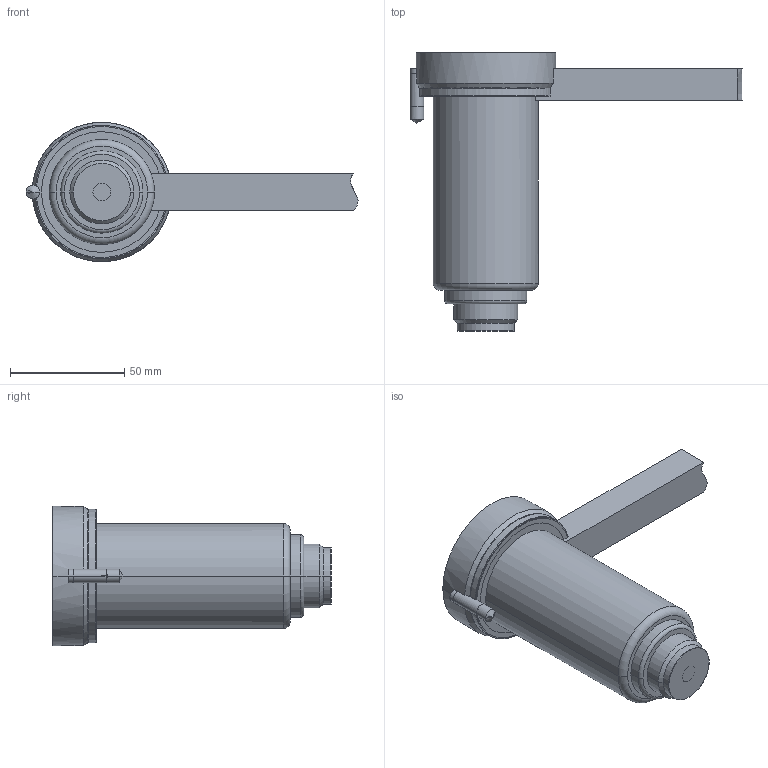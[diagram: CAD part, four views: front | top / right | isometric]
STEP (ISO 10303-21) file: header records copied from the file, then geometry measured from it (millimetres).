
FILE_DESCRIPTION((''),'2;1');
FILE_NAME('SV620007-C_ASM','2016-01-18T',('benoit'),(''),'PRO/ENGINEER BY PARAMETRIC TECHNOLOGY CORPORATION, 2007450','PRO/ENGINEER BY PARAMETRIC TECHNOLOGY CORPORATION, 2007450','');
FILE_SCHEMA(('CONFIG_CONTROL_DESIGN'));
Length unit declared in the file: millimetre
Products named in the file (7): MB620007; BF620001; TP620100; GOUPILLE-6-16; 35X1_5E; SV16-POCHE-122-C_T1; SV620007-C_ASM
Assembly tree (6 placements, depth 2):
  SV620007-C_ASM
    MB620007
    BF620001
    TP620100
    GOUPILLE-6-16
    35X1_5E
    SV16-POCHE-122-C_T1
Bounding box: 145.31 x 121.91 x 61 mm (x, y, z)
Volume: 354564.9 mm3; surface area: 92174.4 mm2
Topology: 9 solids, 9 shells, 204 faces, 476 edges, 296 vertices
Faces by surface type: cylinder 83, plane 56, cone 31, torus 15, bspline 14, sphere 4, extrusion 1
Entity records: 9079 total; most frequent: CARTESIAN_POINT 4227, DIRECTION 1043, ORIENTED_EDGE 940, EDGE_CURVE 470, AXIS2_PLACEMENT_3D 423, VERTEX_POINT 296, EDGE_LOOP 226, CIRCLE 221
